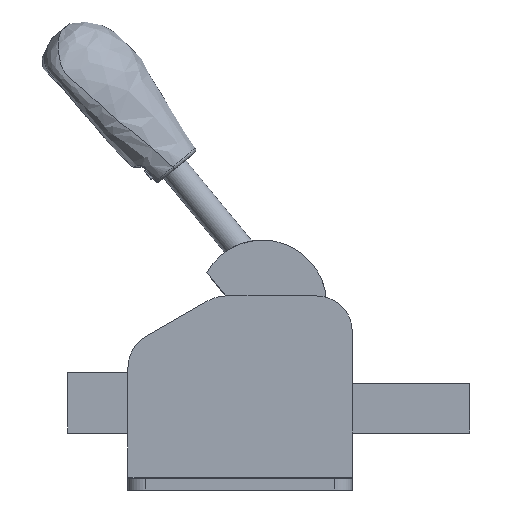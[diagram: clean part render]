
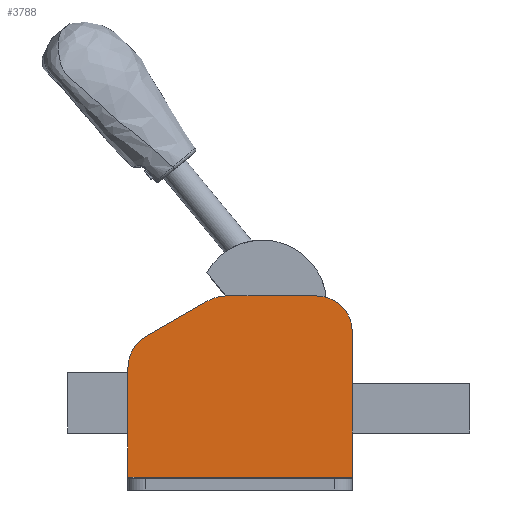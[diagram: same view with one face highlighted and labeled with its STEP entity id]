
A CAD part, front view. The second image highlights one B-rep face of the part: STEP entity #3788.
In plain terms, the highlighted planar face has unit normal (0, -1, 0).
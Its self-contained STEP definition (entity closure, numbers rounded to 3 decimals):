
#274=FACE_OUTER_BOUND('',#494,.T.);
#494=EDGE_LOOP('',(#2604,#2605,#2606,#2607,#2608,#2609,#2610,#2611));
#749=LINE('',#5709,#1090);
#750=LINE('',#5714,#1091);
#751=LINE('',#5716,#1092);
#752=LINE('',#5720,#1093);
#753=LINE('',#5723,#1094);
#1090=VECTOR('',#4616,63.);
#1091=VECTOR('',#4621,30.812);
#1092=VECTOR('',#4622,40.9);
#1093=VECTOR('',#4625,25.526);
#1094=VECTOR('',#4628,20.177);
#1414=CIRCLE('',#4170,10.);
#1415=CIRCLE('',#4171,10.);
#1416=CIRCLE('',#4172,10.);
#1597=VERTEX_POINT('',#5696);
#1599=VERTEX_POINT('',#5704);
#1600=VERTEX_POINT('',#5711);
#1601=VERTEX_POINT('',#5712);
#1602=VERTEX_POINT('',#5715);
#1603=VERTEX_POINT('',#5717);
#1604=VERTEX_POINT('',#5719);
#1605=VERTEX_POINT('',#5721);
#1991=EDGE_CURVE('',#1597,#1599,#749,.T.);
#1992=EDGE_CURVE('',#1600,#1601,#1414,.T.);
#1993=EDGE_CURVE('',#1599,#1601,#750,.T.);
#1994=EDGE_CURVE('',#1602,#1597,#751,.T.);
#1995=EDGE_CURVE('',#1602,#1603,#1415,.T.);
#1996=EDGE_CURVE('',#1603,#1604,#752,.T.);
#1997=EDGE_CURVE('',#1604,#1605,#1416,.T.);
#1998=EDGE_CURVE('',#1605,#1600,#753,.T.);
#2604=ORIENTED_EDGE('',*,*,#1992,.T.);
#2605=ORIENTED_EDGE('',*,*,#1993,.F.);
#2606=ORIENTED_EDGE('',*,*,#1991,.F.);
#2607=ORIENTED_EDGE('',*,*,#1994,.F.);
#2608=ORIENTED_EDGE('',*,*,#1995,.T.);
#2609=ORIENTED_EDGE('',*,*,#1996,.T.);
#2610=ORIENTED_EDGE('',*,*,#1997,.T.);
#2611=ORIENTED_EDGE('',*,*,#1998,.T.);
#3662=PLANE('',#4169);
#3788=ADVANCED_FACE('',(#274),#3662,.F.);
#4169=AXIS2_PLACEMENT_3D('',#5710,#4617,#4618);
#4170=AXIS2_PLACEMENT_3D('',#5713,#4619,#4620);
#4171=AXIS2_PLACEMENT_3D('',#5718,#4623,#4624);
#4172=AXIS2_PLACEMENT_3D('',#5722,#4626,#4627);
#4616=DIRECTION('',(-1.,0.,0.));
#4617=DIRECTION('center_axis',(0.,1.,0.));
#4618=DIRECTION('ref_axis',(0.,0.,1.));
#4619=DIRECTION('center_axis',(0.,-1.,0.));
#4620=DIRECTION('ref_axis',(-0.5,0.,0.866));
#4621=DIRECTION('',(0.,0.,1.));
#4622=DIRECTION('',(0.,0.,-1.));
#4623=DIRECTION('center_axis',(0.,-1.,0.));
#4624=DIRECTION('ref_axis',(1.,0.,0.));
#4625=DIRECTION('',(-1.,0.,0.));
#4626=DIRECTION('center_axis',(0.,-1.,0.));
#4627=DIRECTION('ref_axis',(0.,0.,1.));
#4628=DIRECTION('',(-0.866,0.,-0.5));
#5696=CARTESIAN_POINT('',(70.,-3.2,0.4));
#5704=CARTESIAN_POINT('',(7.,-3.2,0.4));
#5709=CARTESIAN_POINT('',(70.,-3.2,0.4));
#5710=CARTESIAN_POINT('Origin',(0.,-3.2,-3.2));
#5711=CARTESIAN_POINT('',(12.,-3.2,39.872));
#5712=CARTESIAN_POINT('',(7.,-3.2,31.212));
#5713=CARTESIAN_POINT('Origin',(17.,-3.2,31.212));
#5714=CARTESIAN_POINT('',(7.,-3.2,0.4));
#5715=CARTESIAN_POINT('',(70.,-3.2,41.3));
#5716=CARTESIAN_POINT('',(70.,-3.2,41.3));
#5717=CARTESIAN_POINT('',(60.,-3.2,51.3));
#5718=CARTESIAN_POINT('Origin',(60.,-3.2,41.3));
#5719=CARTESIAN_POINT('',(34.474,-3.2,51.3));
#5720=CARTESIAN_POINT('',(60.,-3.2,51.3));
#5721=CARTESIAN_POINT('',(29.474,-3.2,49.96));
#5722=CARTESIAN_POINT('Origin',(34.474,-3.2,41.3));
#5723=CARTESIAN_POINT('',(29.474,-3.2,49.96));
